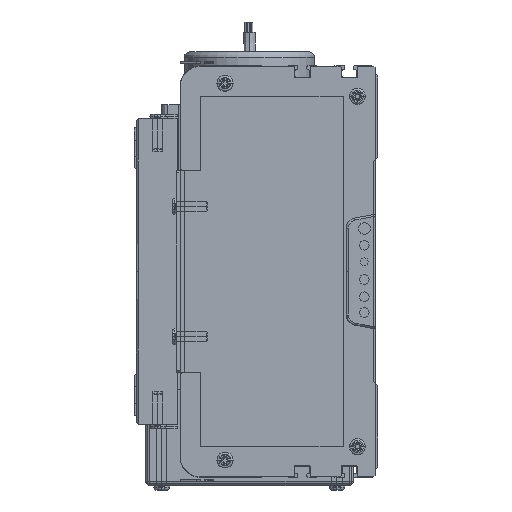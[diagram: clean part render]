
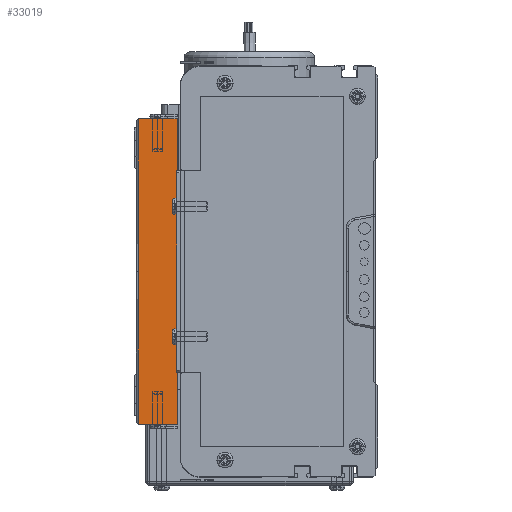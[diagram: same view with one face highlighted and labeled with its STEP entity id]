
A CAD part, left-side view. The second image highlights one B-rep face of the part: STEP entity #33019.
In plain terms, the highlighted planar face has unit normal (-1, 0, 0).
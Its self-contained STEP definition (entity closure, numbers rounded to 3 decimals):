
#13307 = CARTESIAN_POINT ( 'NONE',  ( 0., 20., -75. ) ) ;
#13318 = LINE ( 'NONE', #13307, #98937 ) ;
#31841 = VERTEX_POINT ( 'NONE', #95794 ) ;
#31976 = VERTEX_POINT ( 'NONE', #96390 ) ;
#31982 = EDGE_CURVE ( 'NONE', #31841, #31976, #96195, .T. ) ;
#32736 = VERTEX_POINT ( 'NONE', #97639 ) ;
#32833 = EDGE_CURVE ( 'NONE', #32736, #31976, #97952, .T. ) ;
#33016 = ORIENTED_EDGE ( 'NONE', *, *, #33471, .T. ) ;
#33019 = ADVANCED_FACE ( 'NONE', ( #98510 ), #98514, .F. ) ;
#33028 = ORIENTED_EDGE ( 'NONE', *, *, #32833, .F. ) ;
#33030 = EDGE_CURVE ( 'NONE', #33057, #33075, #98509, .T. ) ;
#33057 = VERTEX_POINT ( 'NONE', #98565 ) ;
#33061 = EDGE_LOOP ( 'NONE', ( #33028, #33016, #33464, #33065, #33099 ) ) ;
#33065 = ORIENTED_EDGE ( 'NONE', *, *, #33460, .T. ) ;
#33075 = VERTEX_POINT ( 'NONE', #98541 ) ;
#33099 = ORIENTED_EDGE ( 'NONE', *, *, #31982, .T. ) ;
#33460 = EDGE_CURVE ( 'NONE', #33075, #31841, #13318, .T. ) ;
#33464 = ORIENTED_EDGE ( 'NONE', *, *, #33030, .T. ) ;
#33471 = EDGE_CURVE ( 'NONE', #32736, #33057, #98940, .T. ) ;
#95794 = CARTESIAN_POINT ( 'NONE',  ( 0., 0., -75. ) ) ;
#96195 = LINE ( 'NONE', #96359, #96357 ) ;
#96355 = DIRECTION ( 'NONE',  ( 0., 0., 1. ) ) ;
#96357 = VECTOR ( 'NONE', #96355, 1000. ) ;
#96359 = CARTESIAN_POINT ( 'NONE',  ( 0., 0., 0. ) ) ;
#96390 = CARTESIAN_POINT ( 'NONE',  ( 0., 0., 75. ) ) ;
#97639 = CARTESIAN_POINT ( 'NONE',  ( 0., 19., 75. ) ) ;
#97948 = DIRECTION ( 'NONE',  ( 0., -1., 0. ) ) ;
#97949 = VECTOR ( 'NONE', #97948, 1000. ) ;
#97951 = CARTESIAN_POINT ( 'NONE',  ( 0., 20., 75. ) ) ;
#97952 = LINE ( 'NONE', #97951, #97949 ) ;
#98412 = AXIS2_PLACEMENT_3D ( 'NONE', #98441, #98493, #98491 ) ;
#98441 = CARTESIAN_POINT ( 'NONE',  ( 0., 20., 0. ) ) ;
#98473 = DIRECTION ( 'NONE',  ( 0., 0., -1. ) ) ;
#98474 = VECTOR ( 'NONE', #98473, 1000. ) ;
#98491 = DIRECTION ( 'NONE',  ( 0., 0., -1. ) ) ;
#98493 = DIRECTION ( 'NONE',  ( 1., 0., 0. ) ) ;
#98507 = CARTESIAN_POINT ( 'NONE',  ( 0., 19., 0. ) ) ;
#98509 = LINE ( 'NONE', #98507, #98474 ) ;
#98510 = FACE_OUTER_BOUND ( 'NONE', #33061, .T. ) ;
#98514 = PLANE ( 'NONE',  #98412 ) ;
#98541 = CARTESIAN_POINT ( 'NONE',  ( 0., 19., -75. ) ) ;
#98565 = CARTESIAN_POINT ( 'NONE',  ( 0., 19., 0. ) ) ;
#98922 = DIRECTION ( 'NONE',  ( 0., 0., -1. ) ) ;
#98934 = DIRECTION ( 'NONE',  ( 0., -1., 0. ) ) ;
#98937 = VECTOR ( 'NONE', #98934, 1000. ) ;
#98940 = LINE ( 'NONE', #98951, #98946 ) ;
#98946 = VECTOR ( 'NONE', #98922, 1000. ) ;
#98951 = CARTESIAN_POINT ( 'NONE',  ( 0., 19., 0. ) ) ;
